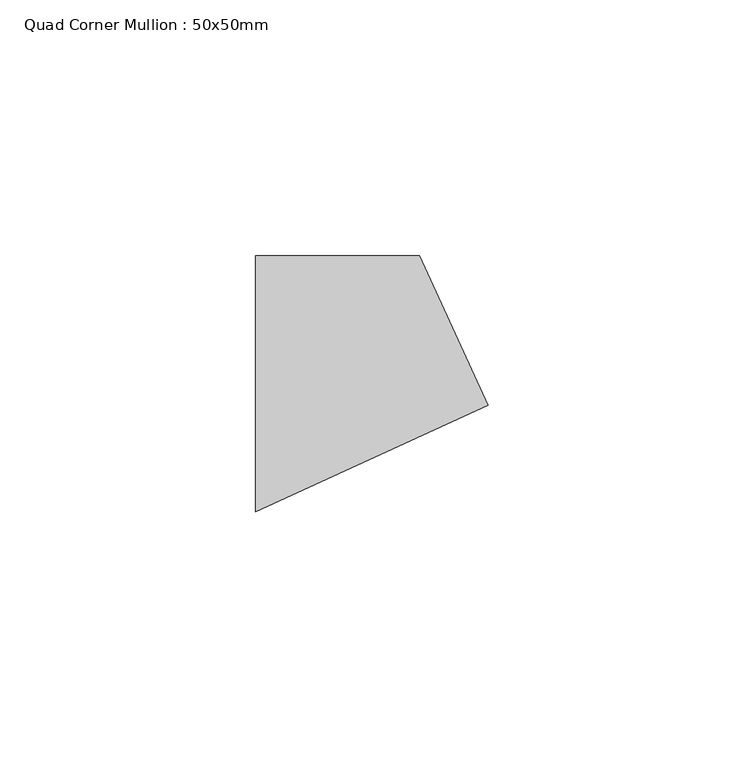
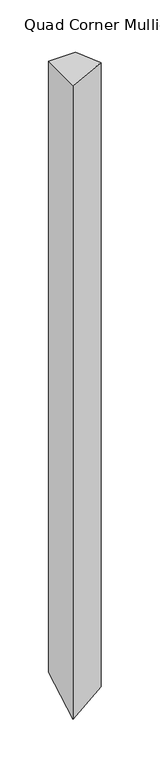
"""IFC4 building model written with IfcOpenShell, lengths in millimetres: member geometry, Quad Corner Mullion : 50x50mm."""

from ifc_helpers import new_model, si_unit, origin, place, context, project, spatial, faceted_brep, source, transform, mapped, element, save


def quad_corner_mullion_50x50mm_7042a707(model_context):
    return source(origin(), model_context, "Body", "Brep", [
        faceted_brep([(29.4125559, -4.1926582, 0.0), (16.0523154, 25.0, 0.0), (-16.0523154, 25.0, 0.0), (-16.0523154, -25.0, 0.0), (29.4125559, -4.1926582, -781.8434957), (16.0523154, 25.0, -764.9891067), (-16.0523154, 25.0, -764.9891067), (-16.0523154, -25.0, -793.8566201)], [[[0, 1, 2, 3]], [[1, 0, 4, 5]], [[2, 1, 5, 6]], [[3, 2, 6, 7]], [[0, 3, 7, 4]], [[4, 7, 6, 5]]]),
    ])


if __name__ == "__main__":
    model = new_model("IFC4")
    model_context = context("Model", 3, world=origin())
    ifc_project = project(units=[si_unit("LENGTHUNIT", "METRE", prefix="MILLI")], contexts=[model_context])
    site = spatial("IfcSite", under=ifc_project)
    building = spatial("IfcBuilding", under=site)
    placement = place(None, origin())
    quad_corner_mullion_50x50mm_shape = quad_corner_mullion_50x50mm_7042a707(model_context)
    element("IfcMember", 1, ObjectType="Quad Corner Mullion : 50x50mm", at=placement, inside=building, context=model_context, shape_type="MappedRepresentation", body=[
        mapped(quad_corner_mullion_50x50mm_shape, transform((0.0, 0.0, 0.0), x_axis=(1.0, 0.0, 0.0), y_axis=(0.0, 1.0, 0.0), z_axis=(0.0, 0.0, 1.0))),
    ])
    save(model, "model.ifc")
